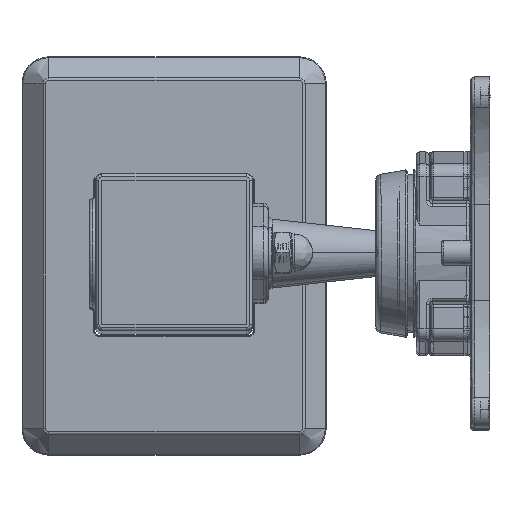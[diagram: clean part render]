
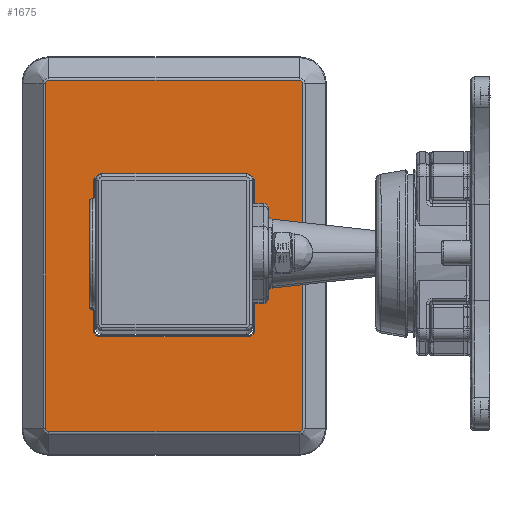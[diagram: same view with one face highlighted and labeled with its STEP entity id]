
A CAD part, top view. The second image highlights one B-rep face of the part: STEP entity #1675.
In plain terms, the highlighted planar face has unit normal (0, 0, 1).
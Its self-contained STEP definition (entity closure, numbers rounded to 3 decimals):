
#1675=ADVANCED_FACE('',(#3243,#1844),#23498,.T.);
#1844=FACE_BOUND('',#4811,.T.);
#3243=FACE_OUTER_BOUND('',#4810,.T.);
#4810=EDGE_LOOP('',(#12135,#12136,#12137,#12138,#12139,#12140,#12141,#12142));
#4811=EDGE_LOOP('',(#12143,#12144,#12145,#12146,#12147,#12148,#12149,#12150));
#12135=ORIENTED_EDGE('',*,*,#15963,.F.);
#12136=ORIENTED_EDGE('',*,*,#15962,.F.);
#12137=ORIENTED_EDGE('',*,*,#15959,.F.);
#12138=ORIENTED_EDGE('',*,*,#15966,.F.);
#12139=ORIENTED_EDGE('',*,*,#15930,.F.);
#12140=ORIENTED_EDGE('',*,*,#15940,.F.);
#12141=ORIENTED_EDGE('',*,*,#15941,.F.);
#12142=ORIENTED_EDGE('',*,*,#15965,.F.);
#12143=ORIENTED_EDGE('',*,*,#15914,.F.);
#12144=ORIENTED_EDGE('',*,*,#15915,.F.);
#12145=ORIENTED_EDGE('',*,*,#15910,.F.);
#12146=ORIENTED_EDGE('',*,*,#15907,.F.);
#12147=ORIENTED_EDGE('',*,*,#15906,.F.);
#12148=ORIENTED_EDGE('',*,*,#15911,.F.);
#12149=ORIENTED_EDGE('',*,*,#15912,.F.);
#12150=ORIENTED_EDGE('',*,*,#15913,.F.);
#15906=EDGE_CURVE('',#22070,#22071,#17482,.T.);
#15907=EDGE_CURVE('',#22071,#22072,#19716,.T.);
#15910=EDGE_CURVE('',#22072,#22073,#17483,.T.);
#15911=EDGE_CURVE('',#22074,#22070,#19719,.T.);
#15912=EDGE_CURVE('',#22075,#22074,#17484,.T.);
#15913=EDGE_CURVE('',#22076,#22075,#19720,.T.);
#15914=EDGE_CURVE('',#22077,#22076,#17485,.T.);
#15915=EDGE_CURVE('',#22073,#22077,#19721,.T.);
#15930=EDGE_CURVE('',#22089,#22088,#19731,.T.);
#15940=EDGE_CURVE('',#22095,#22089,#17495,.T.);
#15941=EDGE_CURVE('',#22096,#22095,#19737,.T.);
#15959=EDGE_CURVE('',#22107,#22108,#19749,.T.);
#15962=EDGE_CURVE('',#22108,#22109,#17504,.T.);
#15963=EDGE_CURVE('',#22109,#22110,#19750,.T.);
#15965=EDGE_CURVE('',#22110,#22096,#17506,.T.);
#15966=EDGE_CURVE('',#22088,#22107,#17507,.T.);
#17482=(
BOUNDED_CURVE()
B_SPLINE_CURVE(2,(#88656,#88657,#88658),.UNSPECIFIED.,.F.,.F.)
B_SPLINE_CURVE_WITH_KNOTS((3,3),(0.,3.142),.UNSPECIFIED.)
CURVE()
GEOMETRIC_REPRESENTATION_ITEM()
RATIONAL_B_SPLINE_CURVE((1.,0.707,1.))
REPRESENTATION_ITEM('')
);
#17483=(
BOUNDED_CURVE()
B_SPLINE_CURVE(2,(#88665,#88666,#88667),.UNSPECIFIED.,.F.,.F.)
B_SPLINE_CURVE_WITH_KNOTS((3,3),(0.,3.142),.UNSPECIFIED.)
CURVE()
GEOMETRIC_REPRESENTATION_ITEM()
RATIONAL_B_SPLINE_CURVE((1.,0.707,1.))
REPRESENTATION_ITEM('')
);
#17484=(
BOUNDED_CURVE()
B_SPLINE_CURVE(2,(#88670,#88671,#88672),.UNSPECIFIED.,.F.,.F.)
B_SPLINE_CURVE_WITH_KNOTS((3,3),(0.,3.142),.UNSPECIFIED.)
CURVE()
GEOMETRIC_REPRESENTATION_ITEM()
RATIONAL_B_SPLINE_CURVE((1.,0.707,1.))
REPRESENTATION_ITEM('')
);
#17485=(
BOUNDED_CURVE()
B_SPLINE_CURVE(2,(#88675,#88676,#88677),.UNSPECIFIED.,.F.,.F.)
B_SPLINE_CURVE_WITH_KNOTS((3,3),(0.,3.142),.UNSPECIFIED.)
CURVE()
GEOMETRIC_REPRESENTATION_ITEM()
RATIONAL_B_SPLINE_CURVE((1.,0.707,1.))
REPRESENTATION_ITEM('')
);
#17495=(
BOUNDED_CURVE()
B_SPLINE_CURVE(2,(#88737,#88738,#88739),.UNSPECIFIED.,.F.,.F.)
B_SPLINE_CURVE_WITH_KNOTS((3,3),(0.,1.706),.UNSPECIFIED.)
CURVE()
GEOMETRIC_REPRESENTATION_ITEM()
RATIONAL_B_SPLINE_CURVE((1.,0.707,1.))
REPRESENTATION_ITEM('')
);
#17504=(
BOUNDED_CURVE()
B_SPLINE_CURVE(2,(#88790,#88791,#88792),.UNSPECIFIED.,.F.,.F.)
B_SPLINE_CURVE_WITH_KNOTS((3,3),(0.,1.706),.UNSPECIFIED.)
CURVE()
GEOMETRIC_REPRESENTATION_ITEM()
RATIONAL_B_SPLINE_CURVE((1.,0.707,1.))
REPRESENTATION_ITEM('')
);
#17506=(
BOUNDED_CURVE()
B_SPLINE_CURVE(2,(#88798,#88799,#88800),.UNSPECIFIED.,.F.,.F.)
B_SPLINE_CURVE_WITH_KNOTS((3,3),(0.,1.706),.UNSPECIFIED.)
CURVE()
GEOMETRIC_REPRESENTATION_ITEM()
RATIONAL_B_SPLINE_CURVE((1.,0.707,1.))
REPRESENTATION_ITEM('')
);
#17507=(
BOUNDED_CURVE()
B_SPLINE_CURVE(2,(#88801,#88802,#88803),.UNSPECIFIED.,.F.,.F.)
B_SPLINE_CURVE_WITH_KNOTS((3,3),(0.,1.706),.UNSPECIFIED.)
CURVE()
GEOMETRIC_REPRESENTATION_ITEM()
RATIONAL_B_SPLINE_CURVE((1.,0.707,1.))
REPRESENTATION_ITEM('')
);
#19716=B_SPLINE_CURVE_WITH_KNOTS('',1,(#88659,#88660),.UNSPECIFIED.,.F.,
 .F.,(2,2),(-47.5,0.),.UNSPECIFIED.);
#19719=B_SPLINE_CURVE_WITH_KNOTS('',1,(#88668,#88669),.UNSPECIFIED.,.F.,
 .F.,(2,2),(-47.5,0.),.UNSPECIFIED.);
#19720=B_SPLINE_CURVE_WITH_KNOTS('',1,(#88673,#88674),.UNSPECIFIED.,.F.,
 .F.,(2,2),(-47.5,0.),.UNSPECIFIED.);
#19721=B_SPLINE_CURVE_WITH_KNOTS('',1,(#88678,#88679),.UNSPECIFIED.,.F.,
 .F.,(2,2),(-47.5,0.),.UNSPECIFIED.);
#19731=B_SPLINE_CURVE_WITH_KNOTS('',1,(#88713,#88714),.UNSPECIFIED.,.F.,
 .F.,(2,2),(-110.,0.),.UNSPECIFIED.);
#19737=B_SPLINE_CURVE_WITH_KNOTS('',1,(#88740,#88741),.UNSPECIFIED.,.F.,
 .F.,(2,2),(-80.,0.),.UNSPECIFIED.);
#19749=B_SPLINE_CURVE_WITH_KNOTS('',1,(#88782,#88783),.UNSPECIFIED.,.F.,
 .F.,(2,2),(-80.,0.),.UNSPECIFIED.);
#19750=B_SPLINE_CURVE_WITH_KNOTS('',1,(#88793,#88794),.UNSPECIFIED.,.F.,
 .F.,(2,2),(-110.,0.),.UNSPECIFIED.);
#22070=VERTEX_POINT('',#88598);
#22071=VERTEX_POINT('',#88599);
#22072=VERTEX_POINT('',#88600);
#22073=VERTEX_POINT('',#88601);
#22074=VERTEX_POINT('',#88602);
#22075=VERTEX_POINT('',#88603);
#22076=VERTEX_POINT('',#88604);
#22077=VERTEX_POINT('',#88605);
#22088=VERTEX_POINT('',#88616);
#22089=VERTEX_POINT('',#88617);
#22095=VERTEX_POINT('',#88623);
#22096=VERTEX_POINT('',#88624);
#22107=VERTEX_POINT('',#88635);
#22108=VERTEX_POINT('',#88636);
#22109=VERTEX_POINT('',#88637);
#22110=VERTEX_POINT('',#88638);
#23498=PLANE('',#24884);
#24884=AXIS2_PLACEMENT_3D('',#88026,#25336,$);
#25336=DIRECTION('',(0.,0.,1.));
#88026=CARTESIAN_POINT('',(49.495,-67.495,12.5));
#88598=CARTESIAN_POINT('',(25.75,23.75,12.5));
#88599=CARTESIAN_POINT('',(23.75,25.75,12.5));
#88600=CARTESIAN_POINT('',(-23.75,25.75,12.5));
#88601=CARTESIAN_POINT('',(-25.75,23.75,12.5));
#88602=CARTESIAN_POINT('',(25.75,-23.75,12.5));
#88603=CARTESIAN_POINT('',(23.75,-25.75,12.5));
#88604=CARTESIAN_POINT('',(-23.75,-25.75,12.5));
#88605=CARTESIAN_POINT('',(-25.75,-23.75,12.5));
#88616=CARTESIAN_POINT('',(-41.086,55.,12.5));
#88617=CARTESIAN_POINT('',(-41.086,-55.,12.5));
#88623=CARTESIAN_POINT('',(-40.,-56.086,12.5));
#88624=CARTESIAN_POINT('',(40.,-56.086,12.5));
#88635=CARTESIAN_POINT('',(-40.,56.086,12.5));
#88636=CARTESIAN_POINT('',(40.,56.086,12.5));
#88637=CARTESIAN_POINT('',(41.086,55.,12.5));
#88638=CARTESIAN_POINT('',(41.086,-55.,12.5));
#88656=CARTESIAN_POINT('',(25.75,23.75,12.5));
#88657=CARTESIAN_POINT('',(25.75,25.75,12.5));
#88658=CARTESIAN_POINT('',(23.75,25.75,12.5));
#88659=CARTESIAN_POINT('',(23.75,25.75,12.5));
#88660=CARTESIAN_POINT('',(-23.75,25.75,12.5));
#88665=CARTESIAN_POINT('',(-23.75,25.75,12.5));
#88666=CARTESIAN_POINT('',(-25.75,25.75,12.5));
#88667=CARTESIAN_POINT('',(-25.75,23.75,12.5));
#88668=CARTESIAN_POINT('',(25.75,-23.75,12.5));
#88669=CARTESIAN_POINT('',(25.75,23.75,12.5));
#88670=CARTESIAN_POINT('',(23.75,-25.75,12.5));
#88671=CARTESIAN_POINT('',(25.75,-25.75,12.5));
#88672=CARTESIAN_POINT('',(25.75,-23.75,12.5));
#88673=CARTESIAN_POINT('',(-23.75,-25.75,12.5));
#88674=CARTESIAN_POINT('',(23.75,-25.75,12.5));
#88675=CARTESIAN_POINT('',(-25.75,-23.75,12.5));
#88676=CARTESIAN_POINT('',(-25.75,-25.75,12.5));
#88677=CARTESIAN_POINT('',(-23.75,-25.75,12.5));
#88678=CARTESIAN_POINT('',(-25.75,23.75,12.5));
#88679=CARTESIAN_POINT('',(-25.75,-23.75,12.5));
#88713=CARTESIAN_POINT('',(-41.086,-55.,12.5));
#88714=CARTESIAN_POINT('',(-41.086,55.,12.5));
#88737=CARTESIAN_POINT('',(-40.,-56.086,12.5));
#88738=CARTESIAN_POINT('',(-41.086,-56.086,12.5));
#88739=CARTESIAN_POINT('',(-41.086,-55.,12.5));
#88740=CARTESIAN_POINT('',(40.,-56.086,12.5));
#88741=CARTESIAN_POINT('',(-40.,-56.086,12.5));
#88782=CARTESIAN_POINT('',(-40.,56.086,12.5));
#88783=CARTESIAN_POINT('',(40.,56.086,12.5));
#88790=CARTESIAN_POINT('',(40.,56.086,12.5));
#88791=CARTESIAN_POINT('',(41.086,56.086,12.5));
#88792=CARTESIAN_POINT('',(41.086,55.,12.5));
#88793=CARTESIAN_POINT('',(41.086,55.,12.5));
#88794=CARTESIAN_POINT('',(41.086,-55.,12.5));
#88798=CARTESIAN_POINT('',(41.086,-55.,12.5));
#88799=CARTESIAN_POINT('',(41.086,-56.086,12.5));
#88800=CARTESIAN_POINT('',(40.,-56.086,12.5));
#88801=CARTESIAN_POINT('',(-41.086,55.,12.5));
#88802=CARTESIAN_POINT('',(-41.086,56.086,12.5));
#88803=CARTESIAN_POINT('',(-40.,56.086,12.5));
